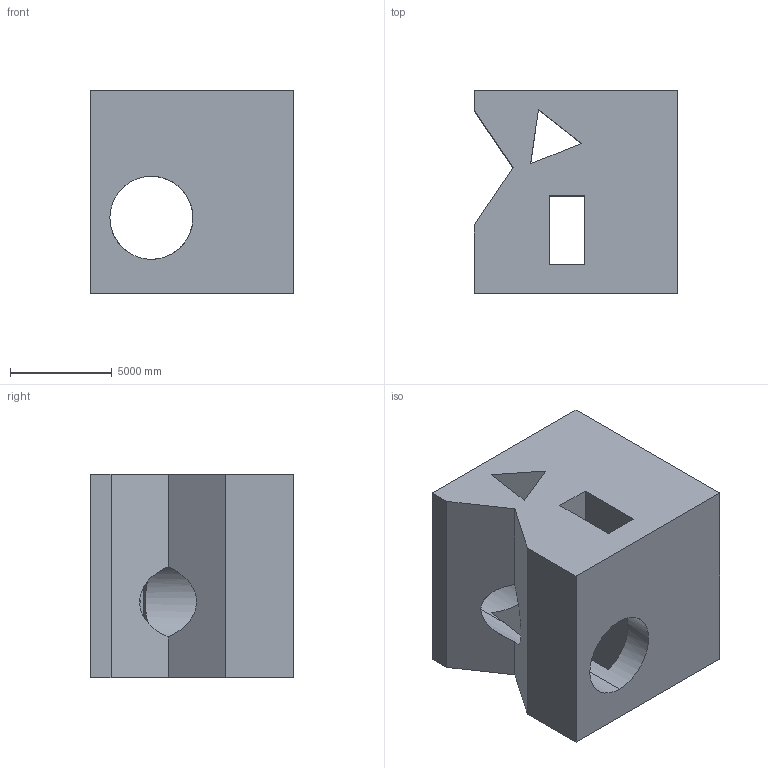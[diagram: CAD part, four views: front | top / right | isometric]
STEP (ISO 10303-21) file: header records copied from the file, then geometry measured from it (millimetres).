
FILE_DESCRIPTION (( 'STEP AP203' ), '1' );
FILE_NAME ('389.STEP', '2022-07-29T11:05:42', ( 'user' ), ( '' ), 'SwSTEP 2.0', 'SolidWorks 2021', '' );
FILE_SCHEMA (( 'CONFIG_CONTROL_DESIGN' ));
Length unit declared in the file: centimetre
Products named in the file (1): 389
Bounding box: 10000 x 10000 x 10000 mm (x, y, z)
Volume: 751521815801.4 mm3; surface area: 780778970.7 mm2
Topology: 1 solids, 1 shells, 21 faces, 69 edges, 46 vertices
Faces by surface type: plane 18, cylinder 3
Entity records: 850 total; most frequent: CARTESIAN_POINT 167, ORIENTED_EDGE 138, DIRECTION 109, EDGE_CURVE 69, VECTOR 53, LINE 53, VERTEX_POINT 46, EDGE_LOOP 29
